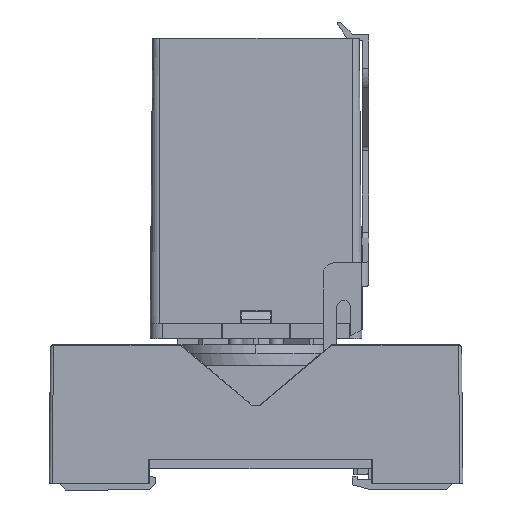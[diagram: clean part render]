
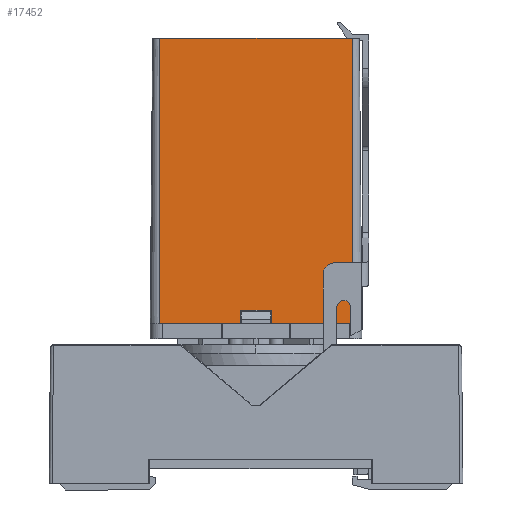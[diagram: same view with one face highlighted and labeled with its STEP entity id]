
A CAD part, left-side view. The second image highlights one B-rep face of the part: STEP entity #17452.
In plain terms, the highlighted planar face has unit normal (-1, 0, 0.009).
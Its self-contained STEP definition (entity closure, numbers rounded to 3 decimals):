
#591 = VERTEX_POINT ( 'NONE', #18346 ) ;
#1019 = DIRECTION ( 'NONE',  ( 0.009, 0., 1. ) ) ;
#1122 = EDGE_CURVE ( 'NONE', #21976, #591, #2372, .T. ) ;
#1268 = CARTESIAN_POINT ( 'NONE',  ( 1.67, 36.738, 27.5 ) ) ;
#1584 = VECTOR ( 'NONE', #49024, 1000. ) ;
#2372 = LINE ( 'NONE', #32725, #23827 ) ;
#4633 = ORIENTED_EDGE ( 'NONE', *, *, #32941, .T. ) ;
#5287 = CARTESIAN_POINT ( 'NONE',  ( 1.67, 50.088, 27.5 ) ) ;
#6116 = DIRECTION ( 'NONE',  ( -1., 0., 0.009 ) ) ;
#6299 = VERTEX_POINT ( 'NONE', #25834 ) ;
#7366 = ORIENTED_EDGE ( 'NONE', *, *, #26186, .F. ) ;
#7571 = CARTESIAN_POINT ( 'NONE',  ( 1.67, 50.088, 27.5 ) ) ;
#8216 = CARTESIAN_POINT ( 'NONE',  ( 1.67, 50.088, 27.5 ) ) ;
#8322 = ORIENTED_EDGE ( 'NONE', *, *, #17019, .T. ) ;
#8709 = VERTEX_POINT ( 'NONE', #14517 ) ;
#9216 = VERTEX_POINT ( 'NONE', #39314 ) ;
#9846 = CARTESIAN_POINT ( 'NONE',  ( 1.67, 50.088, 27.5 ) ) ;
#12239 = ORIENTED_EDGE ( 'NONE', *, *, #1122, .T. ) ;
#12253 = DIRECTION ( 'NONE',  ( -0.009, 0., -1. ) ) ;
#14517 = CARTESIAN_POINT ( 'NONE',  ( 2.082, 50.088, 74.7 ) ) ;
#15661 = CARTESIAN_POINT ( 'NONE',  ( 1.67, 50.088, 27.5 ) ) ;
#15792 = VECTOR ( 'NONE', #49013, 1000. ) ;
#17019 = EDGE_CURVE ( 'NONE', #8709, #32885, #34797, .T. ) ;
#17452 = ADVANCED_FACE ( 'NONE', ( #39910 ), #21020, .T. ) ;
#17777 = AXIS2_PLACEMENT_3D ( 'NONE', #9846, #6116, #36420 ) ;
#18346 = CARTESIAN_POINT ( 'NONE',  ( 1.689, 31.638, 29.7 ) ) ;
#19717 = CARTESIAN_POINT ( 'NONE',  ( 1.67, 18.288, 27.5 ) ) ;
#20220 = LINE ( 'NONE', #19717, #42250 ) ;
#20452 = DIRECTION ( 'NONE',  ( 0., -1., 0. ) ) ;
#21020 = PLANE ( 'NONE',  #17777 ) ;
#21976 = VERTEX_POINT ( 'NONE', #40657 ) ;
#23725 = VECTOR ( 'NONE', #36179, 1000. ) ;
#23827 = VECTOR ( 'NONE', #47849, 1000. ) ;
#23877 = EDGE_CURVE ( 'NONE', #32885, #40241, #46274, .T. ) ;
#24509 = LINE ( 'NONE', #32700, #23725 ) ;
#25641 = ORIENTED_EDGE ( 'NONE', *, *, #40413, .F. ) ;
#25834 = CARTESIAN_POINT ( 'NONE',  ( 2.082, 18.288, 74.7 ) ) ;
#26186 = EDGE_CURVE ( 'NONE', #6299, #9216, #20220, .T. ) ;
#26210 = LINE ( 'NONE', #33896, #1584 ) ;
#26264 = EDGE_CURVE ( 'NONE', #27467, #9216, #34671, .T. ) ;
#26454 = VECTOR ( 'NONE', #20452, 1000. ) ;
#27467 = VERTEX_POINT ( 'NONE', #40097 ) ;
#29884 = ORIENTED_EDGE ( 'NONE', *, *, #23877, .T. ) ;
#30667 = EDGE_CURVE ( 'NONE', #591, #27467, #26210, .T. ) ;
#32700 = CARTESIAN_POINT ( 'NONE',  ( 2.082, 50.088, 74.7 ) ) ;
#32725 = CARTESIAN_POINT ( 'NONE',  ( 1.689, 50.088, 29.7 ) ) ;
#32885 = VERTEX_POINT ( 'NONE', #15661 ) ;
#32941 = EDGE_CURVE ( 'NONE', #40241, #21976, #35103, .T. ) ;
#33896 = CARTESIAN_POINT ( 'NONE',  ( 1.67, 31.638, 27.5 ) ) ;
#34277 = EDGE_LOOP ( 'NONE', ( #12239, #44975, #46339, #7366, #25641, #8322, #29884, #4633 ) ) ;
#34671 = LINE ( 'NONE', #5287, #26454 ) ;
#34797 = LINE ( 'NONE', #8216, #47088 ) ;
#35103 = LINE ( 'NONE', #1268, #41486 ) ;
#36179 = DIRECTION ( 'NONE',  ( 0., -1., 0. ) ) ;
#36420 = DIRECTION ( 'NONE',  ( 0.009, 0., 1. ) ) ;
#39314 = CARTESIAN_POINT ( 'NONE',  ( 1.67, 18.288, 27.5 ) ) ;
#39910 = FACE_OUTER_BOUND ( 'NONE', #34277, .T. ) ;
#40097 = CARTESIAN_POINT ( 'NONE',  ( 1.67, 31.638, 27.5 ) ) ;
#40241 = VERTEX_POINT ( 'NONE', #48356 ) ;
#40413 = EDGE_CURVE ( 'NONE', #8709, #6299, #24509, .T. ) ;
#40657 = CARTESIAN_POINT ( 'NONE',  ( 1.689, 36.738, 29.7 ) ) ;
#41486 = VECTOR ( 'NONE', #1019, 1000. ) ;
#42250 = VECTOR ( 'NONE', #12253, 1000. ) ;
#42700 = DIRECTION ( 'NONE',  ( -0.009, 0., -1. ) ) ;
#44975 = ORIENTED_EDGE ( 'NONE', *, *, #30667, .T. ) ;
#46274 = LINE ( 'NONE', #7571, #15792 ) ;
#46339 = ORIENTED_EDGE ( 'NONE', *, *, #26264, .T. ) ;
#47088 = VECTOR ( 'NONE', #42700, 1000. ) ;
#47849 = DIRECTION ( 'NONE',  ( 0., -1., 0. ) ) ;
#48356 = CARTESIAN_POINT ( 'NONE',  ( 1.67, 36.738, 27.5 ) ) ;
#49013 = DIRECTION ( 'NONE',  ( 0., -1., 0. ) ) ;
#49024 = DIRECTION ( 'NONE',  ( -0.009, 0., -1. ) ) ;
